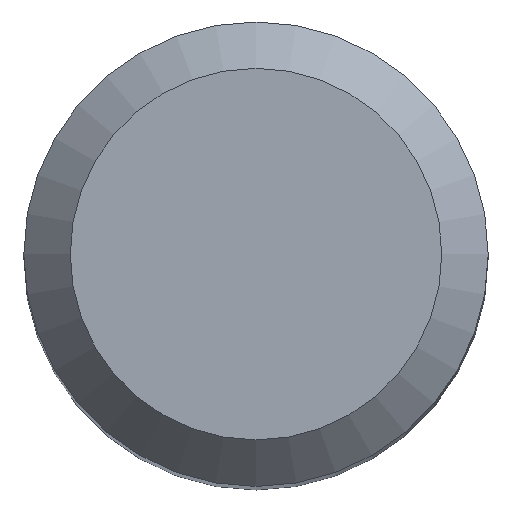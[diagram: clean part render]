
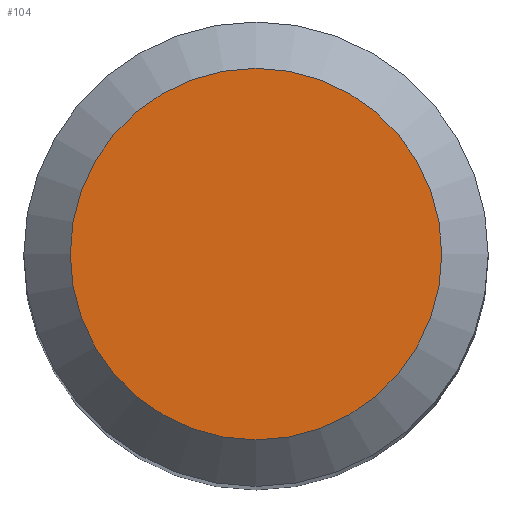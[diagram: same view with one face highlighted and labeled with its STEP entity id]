
A CAD part, top view. The second image highlights one B-rep face of the part: STEP entity #104.
In plain terms, the highlighted planar face has unit normal (0, 0, 1).
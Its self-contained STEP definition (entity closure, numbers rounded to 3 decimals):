
#88=CARTESIAN_POINT('',(4.0,0.0,75.0));
#89=DIRECTION('',(0.0,0.0,1.0));
#90=DIRECTION('',(1.0,0.0,0.0));
#91=AXIS2_PLACEMENT_3D('',#88,#89,#90);
#92=PLANE('',#91);
#93=CARTESIAN_POINT('',(-4.0,0.0,75.0));
#94=VERTEX_POINT('',#93);
#95=CARTESIAN_POINT('',(0.0,0.0,75.0));
#96=DIRECTION('',(0.0,0.0,-1.0));
#97=DIRECTION('',(-1.0,0.0,0.0));
#98=AXIS2_PLACEMENT_3D('',#95,#96,#97);
#99=CIRCLE('',#98,4.0);
#100=EDGE_CURVE('',#94,#94,#99,.T.);
#101=ORIENTED_EDGE('',*,*,#100,.F.);
#102=EDGE_LOOP('',(#101));
#103=FACE_OUTER_BOUND('',#102,.T.);
#104=ADVANCED_FACE('',(#103),#92,.T.);
